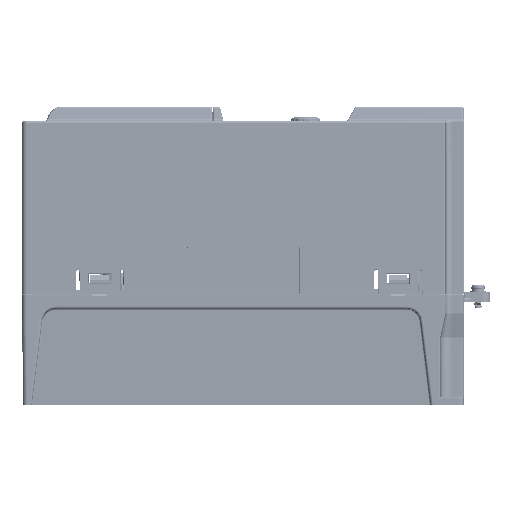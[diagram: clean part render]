
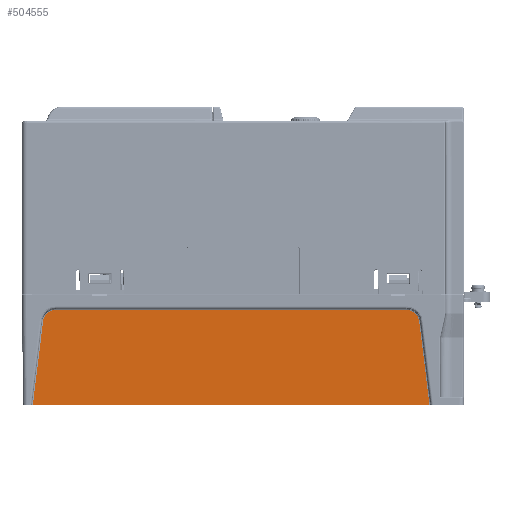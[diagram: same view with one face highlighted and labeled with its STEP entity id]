
A CAD part, left-side view. The second image highlights one B-rep face of the part: STEP entity #504555.
In plain terms, the highlighted planar face has unit normal (-1, 0.001, -0.018) as drawn and (-1, -0.017, 0) by its records, which use the part's own axes.
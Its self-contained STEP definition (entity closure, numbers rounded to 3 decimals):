
#474364=CARTESIAN_POINT('',(2.47,-3.303,
-166.446));
#474490=DIRECTION('',(0.,0.,1.));
#474491=VECTOR('',#474490,166.142);
#474492=CARTESIAN_POINT('',(2.47,-3.303,
-166.446));
#474493=LINE('',#474492,#474491);
#474494=DIRECTION('',(0.017,-0.992,-0.122));
#474495=VECTOR('',#474494,35.25);
#474496=CARTESIAN_POINT('',(1.86,31.679,
-162.151));
#474497=LINE('',#474496,#474495);
#474498=CARTESIAN_POINT('',(1.775,36.509,
-156.692));
#474499=CARTESIAN_POINT('',(1.775,36.509,
-157.075));
#474500=CARTESIAN_POINT('',(1.777,36.43,
-157.825));
#474501=CARTESIAN_POINT('',(1.783,36.081,
-158.919));
#474502=CARTESIAN_POINT('',(1.793,35.515,
-159.913));
#474503=CARTESIAN_POINT('',(1.806,34.756,
-160.771));
#474504=CARTESIAN_POINT('',(1.822,33.838,
-161.455));
#474505=CARTESIAN_POINT('',(1.84,32.795,
-161.935));
#474506=CARTESIAN_POINT('',(1.853,32.06,
-162.104));
#474507=CARTESIAN_POINT('',(1.86,31.679,
-162.151));
#474509=DIRECTION('',(0.,0.,-1.));
#474510=VECTOR('',#474509,146.633);
#474511=CARTESIAN_POINT('',(1.775,36.509,
-10.058));
#474512=LINE('',#474511,#474510);
#474513=CARTESIAN_POINT('',(1.86,31.679,
-4.599));
#474514=CARTESIAN_POINT('',(1.853,32.06,
-4.646));
#474515=CARTESIAN_POINT('',(1.84,32.795,
-4.815));
#474516=CARTESIAN_POINT('',(1.822,33.838,
-5.295));
#474517=CARTESIAN_POINT('',(1.806,34.756,
-5.979));
#474518=CARTESIAN_POINT('',(1.793,35.515,
-6.837));
#474519=CARTESIAN_POINT('',(1.783,36.081,
-7.831));
#474520=CARTESIAN_POINT('',(1.777,36.43,
-8.925));
#474521=CARTESIAN_POINT('',(1.775,36.509,
-9.674));
#474522=CARTESIAN_POINT('',(1.775,36.509,
-10.058));
#474524=DIRECTION('',(-0.017,0.992,-0.122));
#474525=VECTOR('',#474524,35.25);
#474526=CARTESIAN_POINT('',(2.47,-3.303,
-0.304));
#474527=LINE('',#474526,#474525);
#479030=VERTEX_POINT('',#474498);
#479031=VERTEX_POINT('',#474507);
#479032=CARTESIAN_POINT('',(1.775,36.509,
-10.058));
#479033=VERTEX_POINT('',#479032);
#479034=VERTEX_POINT('',#474513);
#479041=VERTEX_POINT('',#474364);
#479043=CARTESIAN_POINT('',(2.47,-3.303,
-0.304));
#479044=VERTEX_POINT('',#479043);
#504540=CARTESIAN_POINT('',(2.5,-5.,-170.807));
#504541=DIRECTION('',(-1.,-0.017,0.));
#504542=DIRECTION('',(0.,0.,-1.));
#504543=AXIS2_PLACEMENT_3D('',#504540,#504541,#504542);
#504544=PLANE('',#504543);
#504546=ORIENTED_EDGE('',*,*,#504545,.F.);
#504547=ORIENTED_EDGE('',*,*,#504177,.F.);
#504548=ORIENTED_EDGE('',*,*,#504226,.F.);
#504549=ORIENTED_EDGE('',*,*,#504241,.F.);
#504551=ORIENTED_EDGE('',*,*,#504550,.F.);
#504552=ORIENTED_EDGE('',*,*,#504532,.F.);
#504553=EDGE_LOOP('',(#504546,#504547,#504548,#504549,#504551,#504552));
#504554=FACE_OUTER_BOUND('',#504553,.F.);
#474508=B_SPLINE_CURVE_WITH_KNOTS('',3,(#474498,#474499,#474500,#474501,#474502,
#474503,#474504,#474505,#474506,#474507),.UNSPECIFIED.,.F.,.F.,(4,1,1,1,1,1,1,
4),(0.,0.143,0.286,0.429,
0.571,0.714,0.857,1.),.UNSPECIFIED.);
#474523=B_SPLINE_CURVE_WITH_KNOTS('',3,(#474513,#474514,#474515,#474516,#474517,
#474518,#474519,#474520,#474521,#474522),.UNSPECIFIED.,.F.,.F.,(4,1,1,1,1,1,1,
4),(0.,0.143,0.286,0.429,
0.571,0.714,0.857,1.),.UNSPECIFIED.);
#504177=EDGE_CURVE('',#479031,#479041,#474497,.T.);
#504226=EDGE_CURVE('',#479030,#479031,#474508,.T.);
#504241=EDGE_CURVE('',#479033,#479030,#474512,.T.);
#504532=EDGE_CURVE('',#479044,#479034,#474527,.T.);
#504545=EDGE_CURVE('',#479041,#479044,#474493,.T.);
#504550=EDGE_CURVE('',#479034,#479033,#474523,.T.);
#504555=ADVANCED_FACE('',(#504554),#504544,.T.);
